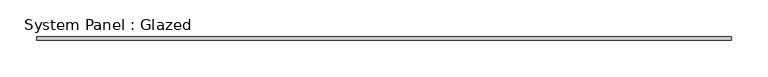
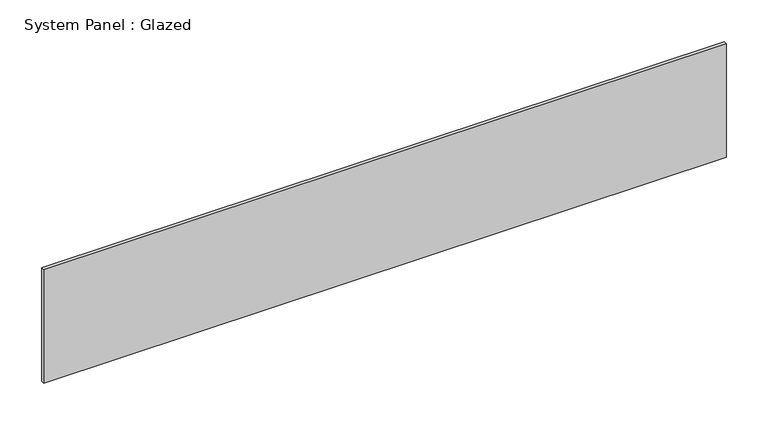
"""IFC4 building model written with IfcOpenShell, lengths in millimetres: plate geometry, System Panel : Glazed."""

from ifc_helpers import new_model, si_unit, origin, origin_with_axes, place, context, project, spatial, polyline, outline, extrude, source, transform, mapped, element, save


def system_panel_glazed_b73f3a15(model_context):
    return source(origin(), model_context, "Body", "SweptSolid", [
        extrude(outline(polyline([(475.0, -2.5), (-475.0, -2.5), (-475.0, 2.5), (475.0, 2.5), (475.0, -2.5)])), origin_with_axes(), (0.0, 0.0, 1.0), 166.8586803),
    ])


if __name__ == "__main__":
    model = new_model("IFC4")
    model_context = context("Model", 3, world=origin())
    ifc_project = project(units=[si_unit("LENGTHUNIT", "METRE", prefix="MILLI")], contexts=[model_context])
    site = spatial("IfcSite", under=ifc_project)
    building = spatial("IfcBuilding", under=site)
    placement = place(None, origin())
    system_panel_glazed_shape = system_panel_glazed_b73f3a15(model_context)
    element("IfcPlate", 1, ObjectType="System Panel : Glazed", at=placement, inside=building, context=model_context, shape_type="MappedRepresentation", body=[
        mapped(system_panel_glazed_shape, transform((0.0, 0.0, 0.0), x_axis=(1.0, 0.0, 0.0), y_axis=(0.0, 1.0, 0.0), z_axis=(0.0, 0.0, 1.0))),
    ])
    save(model, "model.ifc")
